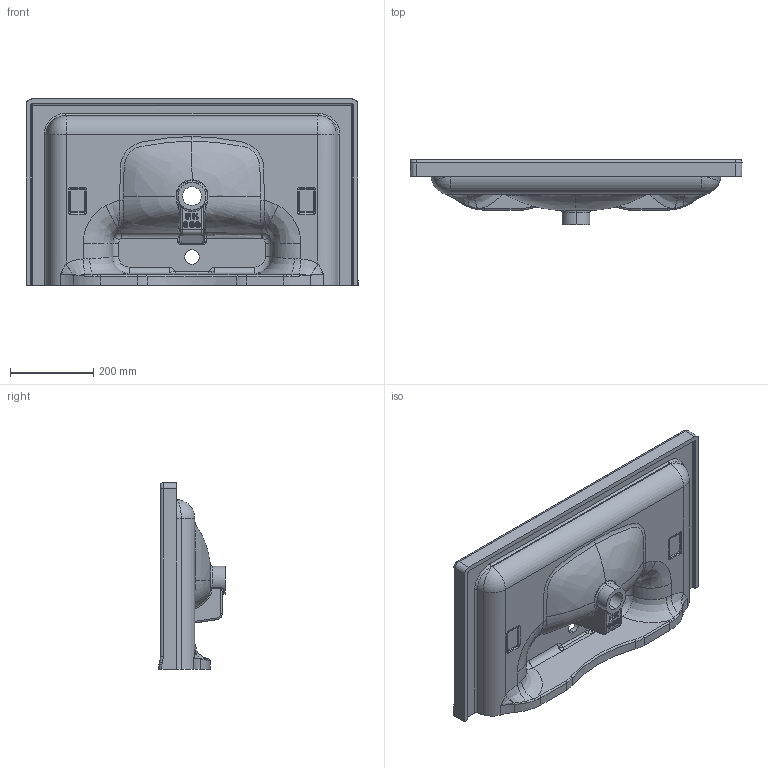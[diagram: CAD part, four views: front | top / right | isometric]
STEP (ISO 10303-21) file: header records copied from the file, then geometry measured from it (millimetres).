
FILE_DESCRIPTION (( 'STEP AP203' ), '1' );
FILE_NAME ('EK080 MODEL.STEP', '2022-04-07T12:54:53', ( '' ), ( '' ), 'SwSTEP 2.0', 'SolidWorks 2021', '' );
FILE_SCHEMA (( 'CONFIG_CONTROL_DESIGN' ));
Products named in the file (1): EK080 MODEL
Bounding box: 799.59 x 159 x 449.73 mm (x, y, z)
Volume: 15923186.6 mm3; surface area: 1052315.8 mm2
Topology: 2 solids, 2 shells, 481 faces, 1180 edges, 675 vertices
Faces by surface type: bspline 182, cylinder 140, plane 63, torus 63, sphere 27, cone 6
Entity records: 80558 total; most frequent: CARTESIAN_POINT 70654, ORIENTED_EDGE 2286, DIRECTION 1767, EDGE_CURVE 1143, AXIS2_PLACEMENT_3D 729, VERTEX_POINT 675, EDGE_LOOP 496, ADVANCED_FACE 481
